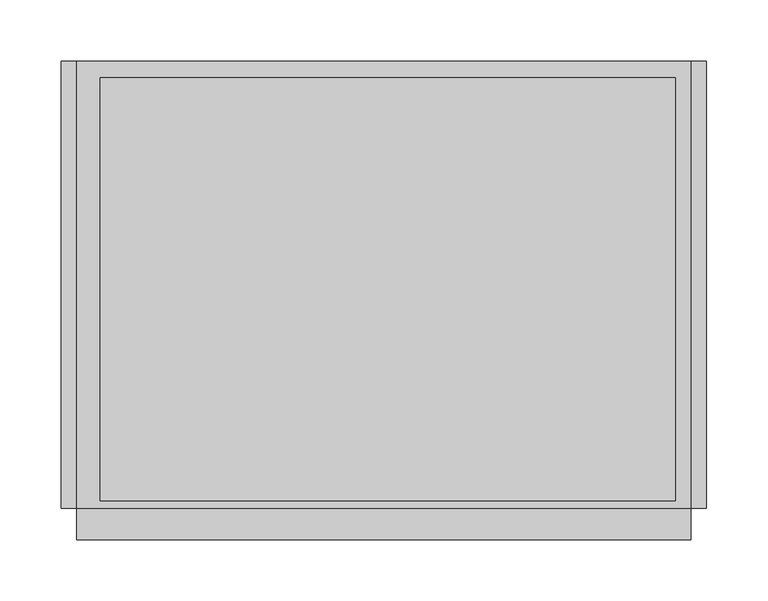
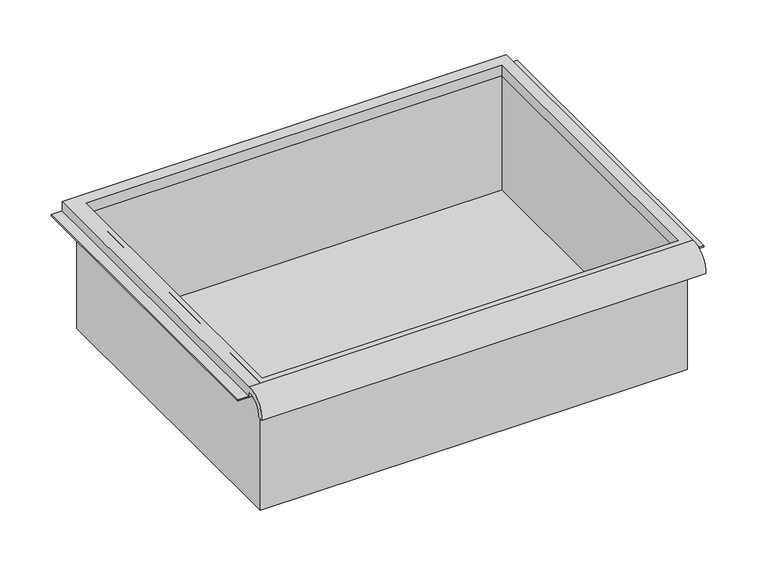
"""IFC4 building model written with IfcOpenShell, lengths in millimetres: furniture geometry."""

from ifc_helpers import new_model, si_unit, frame, origin, place, context, project, spatial, polyline, circle_curve, faceted_brep, source, transform, mapped, element, save
from ifc_brep_helpers import plane_surface, cylinder_surface, revolved_surface, advanced_brep


def furniture_a97c68ee(model_context):
    return source(origin(), model_context, "Body", "SolidModel", [
        advanced_brep(
        [(263.7474999, -195.297482, 861.2199118), (263.7474999, -188.9125, 861.2199118), (263.7474999, -169.8625, 879.481385), (263.7474999, -169.8625, 873.1313846), (263.7474999, 195.2625, 873.1313846), (263.7474999, 195.2625, 885.831385), (263.7474999, -169.8625, 885.831385), (-237.9025001, -195.297482, 861.2199118), (-237.9025001, -169.8625, 885.831385), (-237.9025001, 195.2625, 885.831385), (-237.9025001, 195.2625, 873.1313846), (-237.9025001, -169.8625, 873.1313846), (-237.9025001, -169.8625, 879.481385), (-237.9025001, -188.9125, 861.2199118), (251.0474878, 181.9275, 873.1313846), (-218.8095642, 181.9275, 873.1313846), (-218.8095642, -163.5125, 873.1313846), (251.0474878, -163.5125, 873.1313846), (-218.8095642, 181.9275, 885.831385), (251.0474878, 181.9275, 885.831385), (251.0474878, -163.5125, 885.831385), (-218.8095642, -163.5125, 885.831385)],
        [
            (0, 1),
            (1, 2, circle_curve(frame((263.7474999, -172.3404634, 862.9993222), z_axis=(-1.0, 0.0, 0.0), x_axis=(0.0, 1.0, 0.0)), 16.6672942)),
            (2, 3),
            (3, 4),
            (4, 5),
            (5, 6),
            (6, 0, circle_curve(frame((263.7474999, -172.4601678, 863.0672122), z_axis=(1.0, 0.0, 0.0), x_axis=(0.0, 1.0, 0.0)), 22.9119061)),
            (7, 8, circle_curve(frame((-237.9025001, -172.4601678, 863.0672122), z_axis=(-1.0, 0.0, 0.0), x_axis=(0.0, 1.0, 0.0)), 22.9119061)),
            (8, 9),
            (9, 10),
            (10, 11),
            (11, 12),
            (12, 13, circle_curve(frame((-237.9025001, -172.3404634, 862.9993222), z_axis=(1.0, 0.0, 0.0), x_axis=(0.0, 1.0, 0.0)), 16.6672942)),
            (13, 7),
            (0, 7),
            (13, 1),
            (12, 2),
            (11, 3),
            (10, 4),
            (14, 15),
            (15, 16),
            (16, 17),
            (17, 14),
            (9, 5),
            (8, 6),
            (18, 19),
            (19, 20),
            (20, 21),
            (21, 18),
            (14, 19),
            (18, 15),
            (21, 16),
            (20, 17),
        ],
        [
            plane_surface(frame((263.7474999, -195.297482, 861.2199118), z_axis=(1.0, 0.0, 0.0), x_axis=(0.0, 1.0, 0.0))),
            plane_surface(frame((-237.9025001, -195.297482, 861.2199118), z_axis=(-1.0, 0.0, 0.0), x_axis=(0.0, -1.0, 0.0))),
            plane_surface(frame((263.7474999, -195.297482, 861.2199118), z_axis=(0.0, 0.0, -1.0), x_axis=(-1.0, 0.0, 0.0))),
            revolved_surface(polyline([(-237.9025001, -155.67316920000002, 862.9993222), (263.7474999, -155.67316920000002, 862.9993222)]), (-237.9025001, -172.3404634, 862.9993222), (-1.0, 0.0, 0.0)),
            plane_surface(frame((263.7474999, -169.8625, 879.481385), z_axis=(0.0, -1.0, 0.0), x_axis=(-1.0, 0.0, 0.0))),
            plane_surface(frame((263.7474999, -169.8625, 873.1313846), z_axis=(0.0, 0.0, -1.0), x_axis=(-1.0, 0.0, 0.0))),
            plane_surface(frame((263.7474999, 195.2625, 873.1313846), z_axis=(0.0, 1.0, 0.0), x_axis=(-1.0, 0.0, 0.0))),
            plane_surface(frame((263.7474999, 195.2625, 885.831385), z_axis=(0.0, 0.0, 1.0), x_axis=(-1.0, 0.0, 0.0))),
            cylinder_surface(frame((-237.9025001, -172.4601678, 863.0672122), z_axis=(1.0, 0.0, 0.0), x_axis=(0.0, 1.0, 0.0)), 22.9119061),
            plane_surface(frame((251.0474878, 181.9275, 885.831385), z_axis=(0.0, -1.0, 0.0), x_axis=(0.0, 0.0, -1.0))),
            plane_surface(frame((-218.8095642, 181.9275, 885.831385), z_axis=(1.0, 0.0, 0.0), x_axis=(0.0, 0.0, -1.0))),
            plane_surface(frame((-218.8095642, -163.5125, 885.831385), z_axis=(0.0, 1.0, 0.0), x_axis=(0.0, 0.0, -1.0))),
            plane_surface(frame((251.0474878, -163.5125, 885.831385), z_axis=(-1.0, 0.0, 0.0), x_axis=(0.0, 0.0, -1.0))),
        ],
        [
            (0, [[1, 2, 3, 4, 5, 6, 7]]),
            (1, [[8, 9, 10, 11, 12, 13, 14]]),
            (2, [[-1, 15, -14, 16]]),
            (3, [[-2, -16, -13, 17]]),
            (4, [[-3, -17, -12, 18]]),
            (5, [[-4, -18, -11, 19], [20, 21, 22, 23]]),
            (6, [[-5, -19, -10, 24]]),
            (7, [[-6, -24, -9, 25], [26, 27, 28, 29]]),
            (8, [[-7, -25, -8, -15]]),
            (9, [[30, -26, 31, -20]]),
            (10, [[-31, -29, 32, -21]]),
            (11, [[-32, -28, 33, -22]]),
            (12, [[-30, -23, -33, -27]]),
        ],
    ),
        faceted_brep([(-225.2025001, -169.8625, 733.431385), (257.3974878, -169.8625, 733.431385), (257.3974878, -169.8625, 885.831385), (-225.2025001, -169.8625, 885.831385), (-225.2025001, 188.9125, 733.431385), (-225.2025001, 188.9125, 885.831385), (257.3974878, 188.9125, 885.831385), (257.3974878, 188.9125, 733.431385), (-218.8095642, 181.9275, 885.831385), (251.0474878, 181.9275, 885.831385), (251.0474878, -163.5125, 885.831385), (-218.8095642, -163.5125, 885.831385), (251.0474878, 181.9275, 736.606385), (-218.8095642, 181.9275, 736.606385), (-218.8095642, -163.5125, 736.606385), (251.0474878, -163.5125, 736.606385)], [[[0, 1, 2, 3]], [[4, 5, 6, 7]], [[1, 0, 4, 7]], [[2, 1, 7, 6]], [[3, 2, 6, 5], [8, 9, 10, 11]], [[0, 3, 5, 4]], [[12, 13, 14, 15]], [[13, 12, 9, 8]], [[14, 13, 8, 11]], [[15, 14, 11, 10]], [[12, 15, 10, 9]]]),
        faceted_brep([(-250.6025001, 195.2625, 873.1313846), (-250.6025001, 195.2625, 874.7188846), (-231.5525001, 195.2625, 874.7188846), (-231.5525001, 195.2625, 873.1313846), (-250.6025001, -169.8625, 873.1313846), (-231.5525001, -169.8625, 873.1313846), (-231.5525001, -169.8625, 874.7188846), (-250.6025001, -169.8625, 874.7188846)], [[[0, 1, 2, 3]], [[4, 5, 6, 7]], [[1, 0, 4, 7]], [[2, 1, 7, 6]], [[3, 2, 6, 5]], [[0, 3, 5, 4]]]),
        faceted_brep([(276.4474999, 195.2625, 873.1313846), (263.7474999, 195.2625, 873.1313846), (263.7474999, 195.2625, 874.7188846), (276.4474999, 195.2625, 874.7188846), (276.4474999, -169.8625, 873.1313846), (276.4474999, -169.8625, 874.7188846), (263.7474999, -169.8625, 874.7188846), (263.7474999, -169.8625, 873.1313846)], [[[0, 1, 2, 3]], [[4, 5, 6, 7]], [[1, 0, 4, 7]], [[2, 1, 7, 6]], [[3, 2, 6, 5]], [[0, 3, 5, 4]]]),
    ])


if __name__ == "__main__":
    model = new_model("IFC4")
    model_context = context("Model", 3, world=origin())
    ifc_project = project(units=[si_unit("LENGTHUNIT", "METRE", prefix="MILLI")], contexts=[model_context])
    site = spatial("IfcSite", under=ifc_project)
    building = spatial("IfcBuilding", under=site)
    placement = place(None, origin())
    furniture_shape = furniture_a97c68ee(model_context)
    element("IfcFurniture", 1, ObjectType="HermanMiller_Carts_CT501_Drawer : 6\"H x 15\"D x 20\"W", at=placement, inside=building, context=model_context, shape_type="MappedRepresentation", body=[
        mapped(furniture_shape, transform((0.0, 0.0, 0.0), x_axis=(1.0, 0.0, 0.0), y_axis=(0.0, 1.0, 0.0), z_axis=(0.0, 0.0, 1.0))),
    ])
    save(model, "model.ifc")
